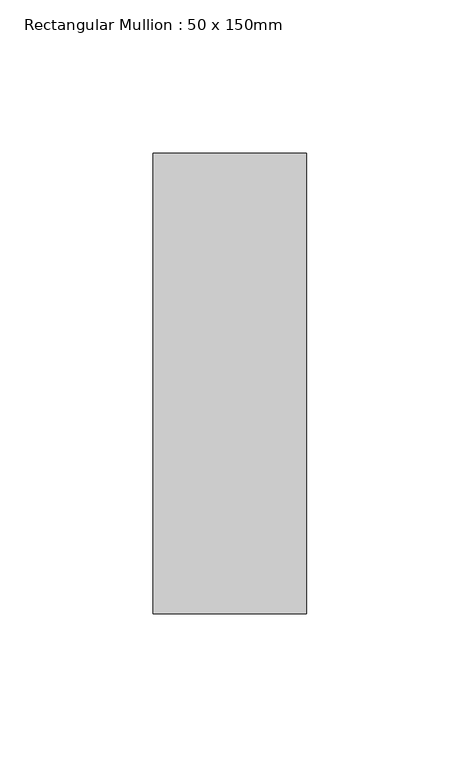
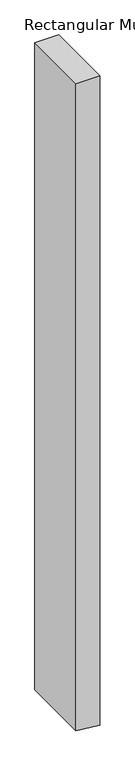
"""IFC4 building model written with IfcOpenShell, lengths in millimetres: member geometry, Rectangular Mullion : 50 x 150mm."""

from ifc_helpers import new_model, si_unit, frame, origin, place, context, project, spatial, polyline, outline, extrude, source, transform, mapped, element, save


def rectangular_mullion_50_x_150mm_75077519(model_context):
    return source(origin(), model_context, "Body", "SweptSolid", [
        extrude(outline(polyline([(0.0, 25.0), (0.0, -25.0), (-1441.8903834, -25.0), (-1445.3705427, 5.6423937), (-1447.5690509, 25.0), (0.0, 25.0)])), frame((0.0, -75.0, 0.0), z_axis=(0.0, 1.0, 0.0), x_axis=(0.0, 0.0, 1.0)), (0.0, 0.0, 1.0), 150.0),
    ])


if __name__ == "__main__":
    model = new_model("IFC4")
    model_context = context("Model", 3, world=origin())
    ifc_project = project(units=[si_unit("LENGTHUNIT", "METRE", prefix="MILLI")], contexts=[model_context])
    site = spatial("IfcSite", under=ifc_project)
    building = spatial("IfcBuilding", under=site)
    placement = place(None, origin())
    rectangular_mullion_50_x_150mm_shape = rectangular_mullion_50_x_150mm_75077519(model_context)
    element("IfcMember", 1, ObjectType="Rectangular Mullion : 50 x 150mm", at=placement, inside=building, context=model_context, shape_type="MappedRepresentation", body=[
        mapped(rectangular_mullion_50_x_150mm_shape, transform((0.0, 0.0, 0.0), x_axis=(1.0, 0.0, 0.0), y_axis=(0.0, 1.0, 0.0), z_axis=(0.0, 0.0, 1.0))),
    ])
    save(model, "model.ifc")
